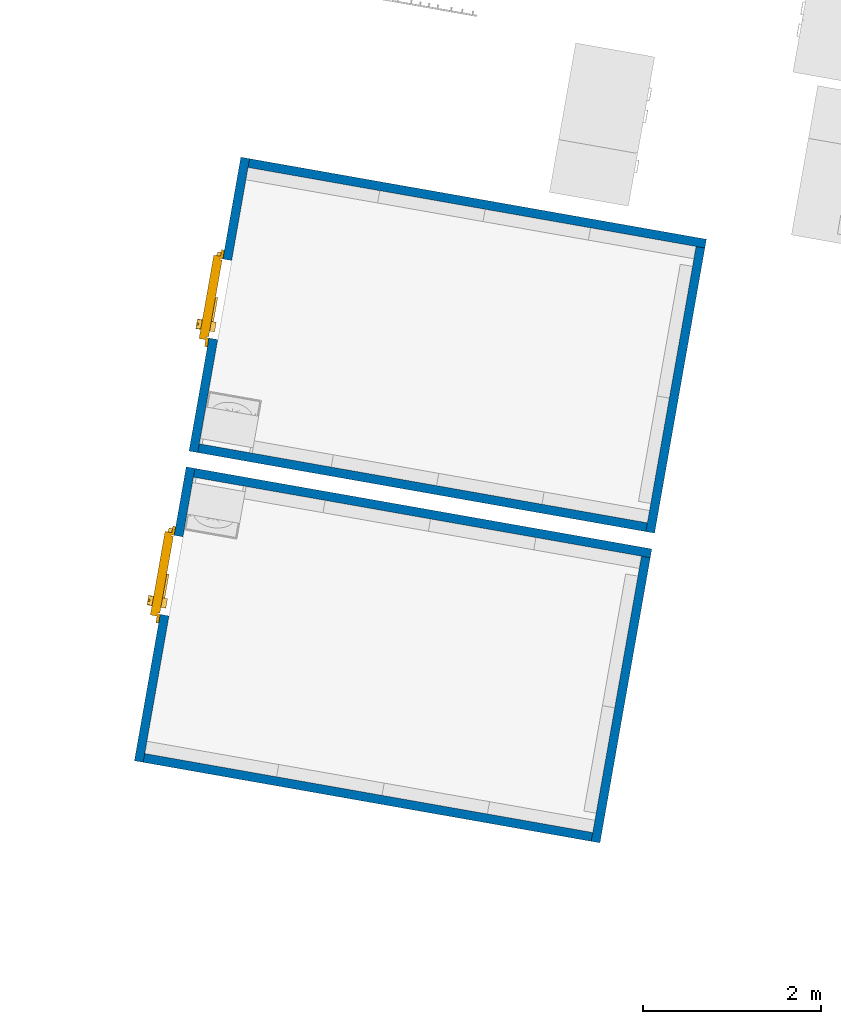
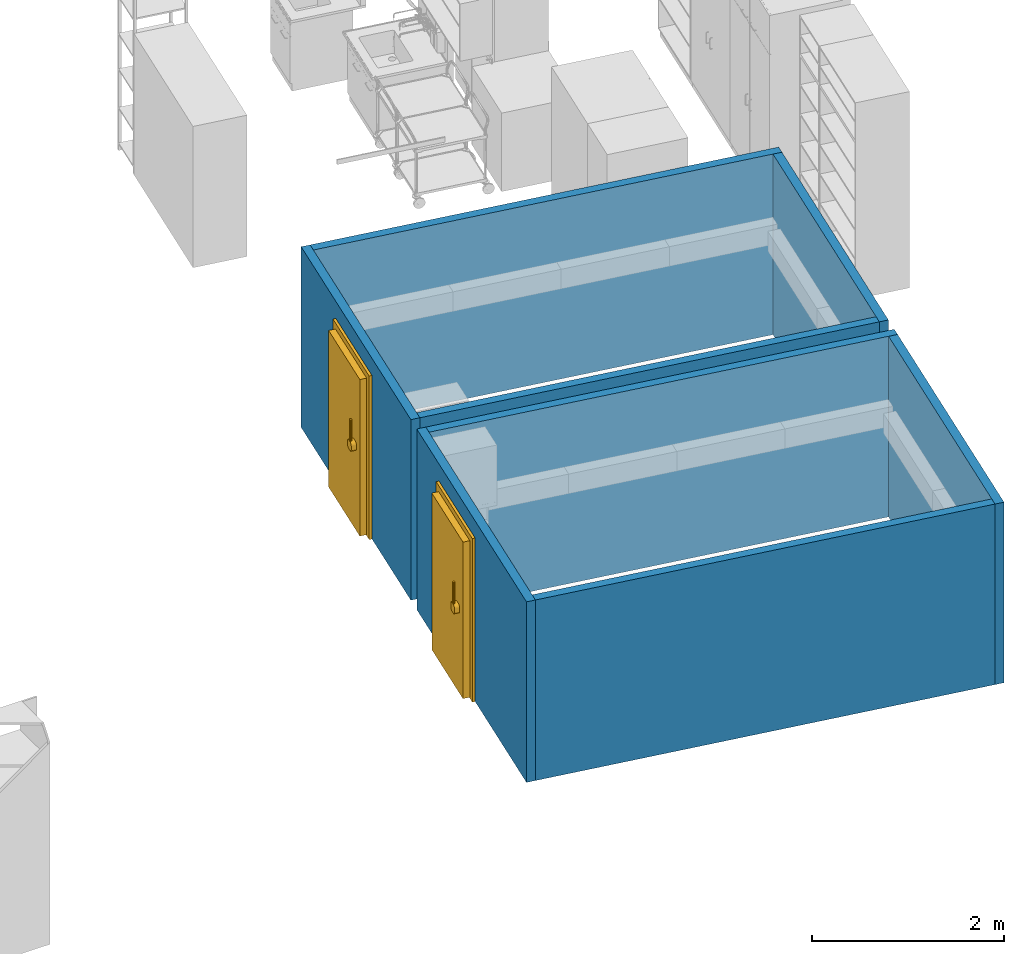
# One storey, part 1 of 32: 8 walls, 2 doors, 2 openings.
"""IFC2X3 building model written with IfcOpenShell, lengths in metres."""

from ifc_helpers import new_model, entity, si_unit, converted_unit, derived_unit, direction, frame, frame_2d, origin, place, context, subcontext, project, spatial, polyline, circle_curve, parameter, trimmed, segment, composite_curve, rectangle, outline, extrude, source, transform, mapped, material, material_list, layer, layer_set, layer_usage, type_object, type_shapes, element, fill, save


model = new_model("IFC2X3")

# Units and contexts
model_context = context("Model", 3, precision=1e-05, world=origin(), true_north=direction((6.12303176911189e-17, 1.0)))
body_context = subcontext(model_context, "Body", "Model", "MODEL_VIEW")
ifc_project = project(units=[si_unit("LENGTHUNIT", "METRE"), si_unit("AREAUNIT", "SQUARE_METRE"), si_unit("VOLUMEUNIT", "CUBIC_METRE"), converted_unit("PLANEANGLEUNIT", "DEGREE", entity("IfcRatioMeasure", 0.0174532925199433), si_unit("PLANEANGLEUNIT", "RADIAN"), dimensions=[0, 0, 0, 0, 0, 0, 0]), si_unit("MASSUNIT", "GRAM", prefix="KILO"), derived_unit("MASSDENSITYUNIT", [(si_unit("MASSUNIT", "GRAM", prefix="KILO"), 1), (si_unit("LENGTHUNIT", "METRE"), -3)]), derived_unit("MOMENTOFINERTIAUNIT", [(si_unit("LENGTHUNIT", "METRE"), 4)]), si_unit("TIMEUNIT", "SECOND"), si_unit("FREQUENCYUNIT", "HERTZ"), si_unit("THERMODYNAMICTEMPERATUREUNIT", "DEGREE_CELSIUS"), derived_unit("THERMALTRANSMITTANCEUNIT", [(si_unit("MASSUNIT", "GRAM", prefix="KILO"), 1), (si_unit("THERMODYNAMICTEMPERATUREUNIT", "KELVIN"), -1), (si_unit("TIMEUNIT", "SECOND"), -3)]), derived_unit("VOLUMETRICFLOWRATEUNIT", [(si_unit("LENGTHUNIT", "METRE"), 3), (si_unit("TIMEUNIT", "SECOND"), -1)]), si_unit("ELECTRICCURRENTUNIT", "AMPERE"), si_unit("ELECTRICVOLTAGEUNIT", "VOLT"), si_unit("POWERUNIT", "WATT"), si_unit("FORCEUNIT", "NEWTON", prefix="KILO"), si_unit("ILLUMINANCEUNIT", "LUX"), si_unit("LUMINOUSFLUXUNIT", "LUMEN"), si_unit("LUMINOUSINTENSITYUNIT", "CANDELA"), derived_unit("USERDEFINED", [(si_unit("MASSUNIT", "GRAM", prefix="KILO"), -1), (si_unit("LENGTHUNIT", "METRE"), -2), (si_unit("TIMEUNIT", "SECOND"), 3), (si_unit("LUMINOUSFLUXUNIT", "LUMEN"), 1)]), derived_unit("LINEARVELOCITYUNIT", [(si_unit("LENGTHUNIT", "METRE"), 1), (si_unit("TIMEUNIT", "SECOND"), -1)]), si_unit("PRESSUREUNIT", "PASCAL"), derived_unit("USERDEFINED", [(si_unit("LENGTHUNIT", "METRE"), -2), (si_unit("MASSUNIT", "GRAM", prefix="KILO"), 1), (si_unit("TIMEUNIT", "SECOND"), -2)]), derived_unit("LINEARFORCEUNIT", [(si_unit("MASSUNIT", "GRAM", prefix="KILO"), 1), (si_unit("LENGTHUNIT", "METRE"), 1), (si_unit("TIMEUNIT", "SECOND"), -2), (si_unit("LENGTHUNIT", "METRE"), -1)]), derived_unit("PLANARFORCEUNIT", [(si_unit("MASSUNIT", "GRAM", prefix="KILO"), 1), (si_unit("LENGTHUNIT", "METRE"), 1), (si_unit("TIMEUNIT", "SECOND"), -2), (si_unit("LENGTHUNIT", "METRE"), -2)])], contexts=[model_context])

# Site, building, storey
site_placement = place(None, origin())
site = spatial("IfcSite", under=ifc_project, at=site_placement, Name="Default", CompositionType="ELEMENT")
building_placement = place(site_placement, origin())
building = spatial("IfcBuilding", under=site, at=building_placement, CompositionType="ELEMENT")
storey_placement = place(building_placement, origin())
storey = spatial("IfcBuildingStorey", under=building, at=storey_placement, Name="00 EG", CompositionType="ELEMENT", Elevation=0.0)

# Wall, opening, door
ifc_material_1 = material(Name="Gipswandbauplatte")
ifc_layer_1 = layer(ifc_material_1, 0.0125)
ifc_material_2 = material(Name="Wärmedämmung - hart")
ifc_layer_2 = layer(ifc_material_2, 0.075)
ifc_layer_3 = layer(ifc_material_1, 0.0125)
ifc_layer_set = layer_set([ifc_layer_1, ifc_layer_2, ifc_layer_3], Name="Basiswand:GK 10.0")
ifc_layer_usage_1 = layer_usage(ifc_layer_set, "AXIS2", "NEGATIVE", 0.05)
wall_type = type_object("IfcWallType", Name="Basiswand:GK 10.0", PredefinedType="STANDARD", material=ifc_layer_set)
wall_1_placement = place(storey_placement, frame((23.3773262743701, 13.7838376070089, 0.0), z_axis=(0.0, 0.0, 1.0), x_axis=(-0.173648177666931, -0.984807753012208, 0.0)))
wall_1 = element("IfcWallStandardCase", 1, at=wall_1_placement, inside=storey, type_object=wall_type, material=ifc_layer_usage_1, Name="Basiswand:GK 10.0", ObjectType="Basiswand:GK 10.0", context=body_context, shape_type="SweptSolid", body=[
    extrude(rectangle(XDim=3.34700000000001, YDim=0.0999999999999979, at=frame_2d((1.67350000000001, 9.29811783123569e-16), x_axis=(-1.0, 0.0))), origin(), (0.0, 0.0, 1.0), 2.3),
])
opening_1_placement = place(wall_1_placement, frame((2.06, 0.0499999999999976, 0.0)))
opening_1 = element("IfcOpeningElement", 2, at=opening_1_placement, cuts=wall_1, Name="dh_Tür-Kühlraum:900 x 1981:1", ObjectType="Opening", context=body_context, shape_type="SweptSolid", body=[
    extrude(rectangle(XDim=1.9812, YDim=0.9, at=frame_2d((0.9906, 0.45), x_axis=(1.0, 0.0))), frame((0.0, 0.0, 0.0), z_axis=(0.0, -1.0, 0.0), x_axis=(0.0, 0.0, 1.0)), (0.0, 0.0, 1.0), 0.1),
])
ifc_material_3 = material(Name="Finish-EFD-Casing")
ifc_material_4 = material(Name="Finish-EFD-DoorStyle-Stucco_White_Aluminum")
ifc_material_5 = material(Name="Finish-EFD-ComponentMetal")
ifc_material_6 = material(Name="Finish-EFD-LatchBlack")
ifc_material_7 = material(Name="Finish-EFD-LatchGreen")
ifc_material_8 = material(Name="Finish-EFD-Hinge-Bullet")
ifc_material_list_1 = material_list([ifc_material_3, ifc_material_4, ifc_material_5, ifc_material_6, ifc_material_7, ifc_material_8])
ifc_material_list_2 = material_list([ifc_material_4, ifc_material_3])
door_style = type_object("IfcDoorStyle", Name="dh_Tür-Kühlraum:900 x 1981", ConstructionType="NOTDEFINED", OperationType="DOUBLE_SWING_RIGHT", ParameterTakesPrecedence=False, Sizeable=False, material=ifc_material_list_2)
shared_shape = source(origin(), body_context, "Body", "SweptSolid", [
    extrude(outline(polyline([(-0.9652, 0.45), (1.016, 0.45), (1.016, 0.5516), (-1.0668, 0.5516), (-1.0668, -0.5516), (1.016, -0.5516), (1.016, -0.45), (-0.9652, -0.45), (-0.9652, 0.45)])), frame((0.45, 0.1, 1.016), z_axis=(0.0, 1.0, 0.0), x_axis=(0.0, 0.0, -1.0)), (0.0, 0.0, 1.0), 0.03175),
    extrude(rectangle(XDim=0.0253999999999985, YDim=0.874599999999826, at=frame_2d((-8.67361737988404e-18, 2.77555756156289e-17), x_axis=(1.0, 0.0))), frame((0.449999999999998, 0.119050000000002, 0.0539750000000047), z_axis=(0.0, 0.0, 1.0), x_axis=(0.0, -1.0, 0.0)), (0.0, 0.0, 1.0), 1.91452499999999),
    extrude(rectangle(XDim=0.950799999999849, YDim=0.076199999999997, at=frame_2d((0.0, 6.93889390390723e-18), x_axis=(1.0, 0.0))), frame((0.449999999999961, 0.169850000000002, 0.0127000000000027), z_axis=(0.0, 0.0, 1.0), x_axis=(-1.0, 0.0, 0.0)), (0.0, 0.0, 1.0), 1.9938999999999),
    extrude(outline(composite_curve([segment(polyline([(-0.00270000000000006, -0.0126447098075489), (0.00269999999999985, -0.0126447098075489)]), True, "CONTINUOUS"), segment(trimmed(circle_curve(frame_2d((0.00269999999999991, -0.00264470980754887), x_axis=(0.0, 1.0)), 0.01), [parameter(180.0)], [parameter(269.999999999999)], True, "PARAMETER"), True, "CONTINUOUS"), segment(polyline([(0.0127, -0.00264470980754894), (0.0127000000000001, 0.0026447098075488)]), True, "CONTINUOUS"), segment(trimmed(circle_curve(frame_2d((0.00270000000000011, 0.00264470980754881), x_axis=(0.0, 1.0)), 0.01), [parameter(270.0)], [parameter(0.0)], True, "PARAMETER"), True, "CONTINUOUS"), segment(polyline([(0.00270000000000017, 0.0126447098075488), (-0.0026999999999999, 0.0126447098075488)]), True, "CONTINUOUS"), segment(trimmed(circle_curve(frame_2d((-0.00269999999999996, 0.00264470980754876), x_axis=(0.0, 1.0)), 0.01), [parameter(360.0)], [parameter(89.9999999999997)], True, "PARAMETER"), True, "CONTINUOUS"), segment(polyline([(-0.0127, 0.00264470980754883), (-0.0127000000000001, -0.00264470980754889)]), True, "CONTINUOUS"), segment(trimmed(circle_curve(frame_2d((-0.00270000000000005, -0.00264470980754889), x_axis=(0.0, 1.0)), 0.01), [parameter(90.0000000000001)], [parameter(180.0)], True, "PARAMETER"), True, "CONTINUOUS")], self_intersect=False)), frame((0.133515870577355, 0.252400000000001, 1.1350625), z_axis=(0.0, 0.0, 1.0), x_axis=(0.0, 1.0, 0.0)), (0.0, 0.0, 1.0), 0.27305),
    extrude(outline(composite_curve([segment(trimmed(circle_curve(frame_2d((0.0256730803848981, 0.0255625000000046), x_axis=(1.0, 0.0)), 0.03), [parameter(360.0)], [parameter(89.9999999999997)], True, "PARAMETER"), True, "CONTINUOUS"), segment(polyline([(0.0256730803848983, 0.0555625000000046), (-0.0256730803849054, 0.0555625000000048)]), True, "CONTINUOUS"), segment(trimmed(circle_curve(frame_2d((-0.0256730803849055, 0.0255625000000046), x_axis=(1.0, 0.0)), 0.03), [parameter(90.0000000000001)], [parameter(180.0)], True, "PARAMETER"), True, "CONTINUOUS"), segment(polyline([(-0.0556730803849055, 0.0255625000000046), (-0.0556730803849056, -0.025562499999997)]), True, "CONTINUOUS"), segment(trimmed(circle_curve(frame_2d((-0.025673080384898, -0.0255624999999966), x_axis=(1.0, 0.0)), 0.03), [parameter(180.0)], [parameter(269.999999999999)], True, "PARAMETER"), True, "CONTINUOUS"), segment(polyline([(-0.0256730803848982, -0.0555624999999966), (0.0256730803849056, -0.0555625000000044)]), True, "CONTINUOUS"), segment(trimmed(circle_curve(frame_2d((0.0256730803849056, -0.0255625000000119), x_axis=(1.0, 0.0)), 0.03), [parameter(269.999999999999)], [parameter(360.0)], True, "PARAMETER"), True, "CONTINUOUS"), segment(polyline([(0.0556730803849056, -0.0255625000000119), (0.0556730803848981, 0.0255625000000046)]), True, "CONTINUOUS")], self_intersect=False)), frame((0.133460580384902, 0.207950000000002, 1.0795), z_axis=(0.0, 1.0, 0.0), x_axis=(-1.0, 0.0, 0.0)), (0.0, 0.0, 1.0), 0.05715),
    extrude(rectangle(XDim=0.0254, YDim=0.273049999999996, at=frame_2d((2.60208521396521e-18, 0.0), x_axis=(1.0, 0.0))), frame((0.325658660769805, 0.093650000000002, 1.06680000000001), z_axis=(0.0, 0.0, 1.0), x_axis=(0.0, 1.0, 0.0)), (0.0, 0.0, 1.0), 0.0254000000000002),
    extrude(rectangle(XDim=0.05715, YDim=0.111125, at=frame_2d((3.46944695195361e-18, -1.73472347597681e-17), x_axis=(1.0, 0.0))), frame((0.133571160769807, 0.0777750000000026, 1.0239375), z_axis=(0.0, 0.0, 1.0), x_axis=(0.0, 1.0, 0.0)), (0.0, 0.0, 1.0), 0.111125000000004),
    extrude(outline(polyline([(-0.0264883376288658, -0.0234524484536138), (0.021136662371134, -0.0234524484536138), (0.021136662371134, 0.0257600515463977), (-0.0157849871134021, 0.0211448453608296), (-0.0264883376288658, -0.0234524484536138)])), frame((0.948852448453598, 0.152886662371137, 1.76847500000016), z_axis=(0.0, 0.0, 1.0), x_axis=(0.0, -1.0, 0.0)), (0.0, 0.0, 1.0), 0.1651),
    extrude(outline(polyline([(-0.0264883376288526, -0.0234524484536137), (0.0211366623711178, -0.0234524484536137), (0.0211366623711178, 0.0257600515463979), (-0.015784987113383, 0.0211448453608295), (-0.0264883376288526, -0.0234524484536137)])), frame((0.948852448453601, 0.152886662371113, 0.92075), z_axis=(0.0, 0.0, 1.0), x_axis=(0.0, -1.0, 0.0)), (0.0, 0.0, 1.0), 0.1651),
    extrude(outline(polyline([(-0.0264883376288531, -0.0234524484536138), (0.0211366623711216, -0.0234524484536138), (0.0211366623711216, 0.0257600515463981), (-0.0157849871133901, 0.0211448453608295), (-0.0264883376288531, -0.0234524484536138)])), frame((0.948852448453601, 0.152886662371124, 0.139699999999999), z_axis=(0.0, 0.0, 1.0), x_axis=(0.0, -1.0, 0.0)), (0.0, 0.0, 1.0), 0.1651),
])
type_shapes(door_style, [shared_shape])
door_1_placement = place(opening_1_placement, frame((0.0, 0.0, 0.0), z_axis=(0.0, 0.0, 1.0), x_axis=(-1.0, 0.0, 0.0)))
door_1 = element("IfcDoor", 3, at=door_1_placement, inside=storey, type_object=door_style, material=ifc_material_list_1, Name="dh_Tür-Kühlraum:900 x 1981", ObjectType="dh_Tür-Kühlraum:900 x 1981", OverallHeight=1.9812, OverallWidth=0.899999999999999, context=body_context, shape_type="MappedRepresentation", body=[
    mapped(shared_shape, transform((0.0, 0.0, 0.0), scale=1.0)),
])
fill(opening_1, door_1)

# Walls
ifc_layer_usage_2 = layer_usage(ifc_layer_set, "AXIS2", "NEGATIVE", 0.05)
wall_2_placement = place(storey_placement, frame((23.4178842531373, 13.725914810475, 0.0), z_axis=(0.0, 0.0, 1.0), x_axis=(0.984807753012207, -0.173648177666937, 0.0)))
element("IfcWallStandardCase", 4, at=wall_2_placement, inside=storey, type_object=wall_type, material=ifc_layer_usage_2, Name="Basiswand:GK 10.0", ObjectType="Basiswand:GK 10.0", context=body_context, shape_type="SweptSolid", body=[
    extrude(rectangle(XDim=5.202, YDim=0.0999999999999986, at=frame_2d((2.601, -6.93889390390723e-17), x_axis=(-1.0, 0.0))), origin(), (0.0, 0.0, 1.0), 2.3),
])
ifc_layer_usage_3 = layer_usage(ifc_layer_set, "AXIS2", "NEGATIVE", 0.05)
wall_3_placement = place(storey_placement, frame((28.4829313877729, 12.7820390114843, 0.0), z_axis=(0.0, 0.0, 1.0), x_axis=(-0.173648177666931, -0.984807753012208, 0.0)))
element("IfcWallStandardCase", 5, at=wall_3_placement, inside=storey, type_object=wall_type, material=ifc_layer_usage_3, Name="Basiswand:GK 10.0", ObjectType="Basiswand:GK 10.0", context=body_context, shape_type="SweptSolid", body=[
    extrude(rectangle(XDim=3.247, YDim=0.0999999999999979, at=frame_2d((1.6235, 9.61036805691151e-16), x_axis=(-1.0, 0.0))), origin(), (0.0, 0.0, 1.0), 2.3),
])
ifc_layer_usage_4 = layer_usage(ifc_layer_set, "AXIS2", "NEGATIVE", 0.05)
wall_4_placement = place(storey_placement, frame((27.8785377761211, 9.64229103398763, 0.0), z_axis=(0.0, 0.0, 1.0), x_axis=(-0.984807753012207, 0.173648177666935, 0.0)))
element("IfcWallStandardCase", 6, at=wall_4_placement, inside=storey, type_object=wall_type, material=ifc_layer_usage_4, Name="Basiswand:GK 10.0", ObjectType="Basiswand:GK 10.0", context=body_context, shape_type="SweptSolid", body=[
    extrude(rectangle(XDim=5.10200000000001, YDim=0.100000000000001, at=frame_2d((2.551, 6.93889390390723e-18), x_axis=(-1.0, 0.0))), origin(), (0.0, 0.0, 1.0), 2.3),
])

# Wall, opening, door
ifc_layer_usage_5 = layer_usage(ifc_layer_set, "AXIS2", "NEGATIVE", 0.05)
wall_5_placement = place(storey_placement, frame((22.7648691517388, 10.3104206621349, 0.0), z_axis=(0.0, 0.0, 1.0), x_axis=(-0.173648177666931, -0.984807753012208, 0.0)))
wall_5 = element("IfcWallStandardCase", 7, at=wall_5_placement, inside=storey, type_object=wall_type, material=ifc_layer_usage_5, Name="Basiswand:GK 10.0", ObjectType="Basiswand:GK 10.0", context=body_context, shape_type="SweptSolid", body=[
    extrude(rectangle(XDim=3.34700000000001, YDim=0.0999999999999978, at=frame_2d((1.6735, 8.29197821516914e-16), x_axis=(-1.0, 0.0))), origin(), (0.0, 0.0, 1.0), 2.3),
])
opening_2_placement = place(wall_5_placement, frame((1.68000000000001, 0.0500000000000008, 0.0)))
opening_2 = element("IfcOpeningElement", 8, at=opening_2_placement, cuts=wall_5, Name="dh_Tür-Kühlraum:900 x 1981:1", ObjectType="Opening", context=body_context, shape_type="SweptSolid", body=[
    extrude(rectangle(XDim=1.9812, YDim=0.9, at=frame_2d((0.9906, 0.45), x_axis=(1.0, 0.0))), frame((0.0, 0.0, 0.0), z_axis=(0.0, -1.0, 0.0), x_axis=(0.0, 0.0, 1.0)), (0.0, 0.0, 1.0), 0.1),
])
ifc_material_list_3 = material_list([ifc_material_3, ifc_material_4, ifc_material_5, ifc_material_6, ifc_material_7, ifc_material_8])
door_2_placement = place(opening_2_placement, frame((0.0, 0.0, 0.0), z_axis=(0.0, 0.0, 1.0), x_axis=(-1.0, 0.0, 0.0)))
door_2 = element("IfcDoor", 9, at=door_2_placement, inside=storey, type_object=door_style, material=ifc_material_list_3, Name="dh_Tür-Kühlraum:900 x 1981", ObjectType="dh_Tür-Kühlraum:900 x 1981", OverallHeight=1.9812, OverallWidth=0.9, context=body_context, shape_type="MappedRepresentation", body=[
    mapped(shared_shape, transform((0.0, 0.0, 0.0), scale=1.0)),
])
fill(opening_2, door_2)

# Walls
ifc_layer_usage_6 = layer_usage(ifc_layer_set, "AXIS2", "NEGATIVE", 0.05)
wall_6_placement = place(storey_placement, frame((22.8054271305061, 10.2524978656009, 0.0), z_axis=(0.0, 0.0, 1.0), x_axis=(0.984807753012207, -0.173648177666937, 0.0)))
element("IfcWallStandardCase", 10, at=wall_6_placement, inside=storey, type_object=wall_type, material=ifc_layer_usage_6, Name="Basiswand:GK 10.0", ObjectType="Basiswand:GK 10.0", context=body_context, shape_type="SweptSolid", body=[
    extrude(rectangle(XDim=5.202, YDim=0.0999999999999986, at=frame_2d((2.601, -6.10622663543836e-16), x_axis=(-1.0, 0.0))), origin(), (0.0, 0.0, 1.0), 2.3),
])
ifc_layer_usage_7 = layer_usage(ifc_layer_set, "AXIS2", "NEGATIVE", 0.05)
wall_7_placement = place(storey_placement, frame((27.8704742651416, 9.30862206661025, 0.0), z_axis=(0.0, 0.0, 1.0), x_axis=(-0.173648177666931, -0.984807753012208, 0.0)))
element("IfcWallStandardCase", 11, at=wall_7_placement, inside=storey, type_object=wall_type, material=ifc_layer_usage_7, Name="Basiswand:GK 10.0", ObjectType="Basiswand:GK 10.0", context=body_context, shape_type="SweptSolid", body=[
    extrude(rectangle(XDim=3.247, YDim=0.0999999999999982, at=frame_2d((1.6235, 9.33281230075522e-16), x_axis=(-1.0, 0.0))), origin(), (0.0, 0.0, 1.0), 2.3),
])
ifc_layer_usage_8 = layer_usage(ifc_layer_set, "AXIS2", "NEGATIVE", 0.05)
wall_8_placement = place(storey_placement, frame((27.2660806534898, 6.16887408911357, 0.0), z_axis=(0.0, 0.0, 1.0), x_axis=(-0.984807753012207, 0.173648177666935, 0.0)))
element("IfcWallStandardCase", 12, at=wall_8_placement, inside=storey, type_object=wall_type, material=ifc_layer_usage_8, Name="Basiswand:GK 10.0", ObjectType="Basiswand:GK 10.0", context=body_context, shape_type="SweptSolid", body=[
    extrude(rectangle(XDim=5.102, YDim=0.100000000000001, at=frame_2d((2.551, -3.33066907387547e-16), x_axis=(-1.0, 0.0))), origin(), (0.0, 0.0, 1.0), 2.3),
])

save(model, "model.ifc")
